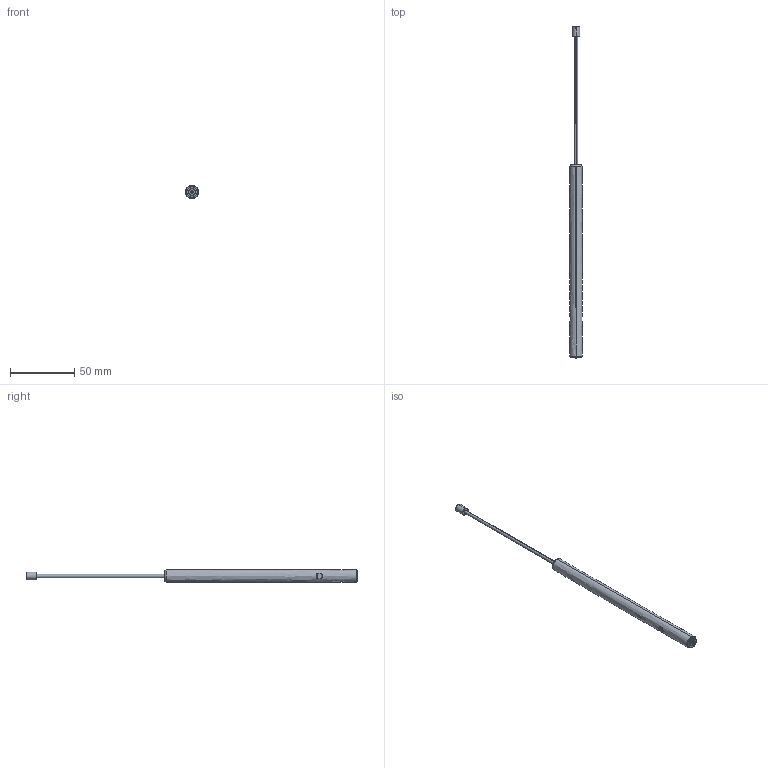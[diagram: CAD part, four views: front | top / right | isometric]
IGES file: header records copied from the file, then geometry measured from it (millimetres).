
Start section: SolidWorks IGES file using analytic representation for surfaces
Bounding box: 10 x 258 x 10 mm (x, y, z)
Surface area: 6232.1 mm2 (no closed solid volume)
Topology: 0 solids, 0 shells, 56 faces, 706 edges, 704 vertices
Faces by surface type: bspline 33, revolution 23
